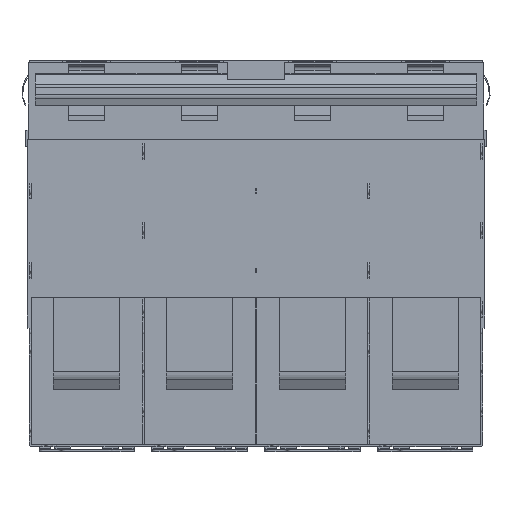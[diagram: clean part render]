
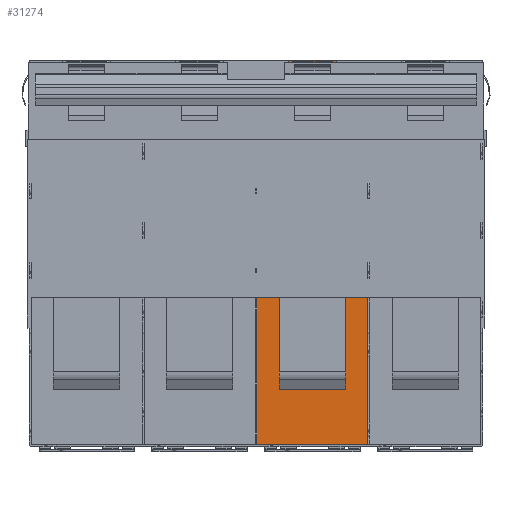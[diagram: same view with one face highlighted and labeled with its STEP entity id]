
A CAD part, front view. The second image highlights one B-rep face of the part: STEP entity #31274.
In plain terms, the highlighted planar face has unit normal (0, -1, 0).
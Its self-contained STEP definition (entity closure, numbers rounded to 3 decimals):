
#1716 = VECTOR ( 'NONE', #19689, 1000. ) ;
#2618 = LINE ( 'NONE', #50173, #1716 ) ;
#5098 = FACE_OUTER_BOUND ( 'NONE', #52629, .T. ) ;
#7949 = ORIENTED_EDGE ( 'NONE', *, *, #66746, .T. ) ;
#8696 = VERTEX_POINT ( 'NONE', #40279 ) ;
#8753 = VECTOR ( 'NONE', #10661, 1000. ) ;
#9497 = ORIENTED_EDGE ( 'NONE', *, *, #75304, .F. ) ;
#9629 = VERTEX_POINT ( 'NONE', #11454 ) ;
#10661 = DIRECTION ( 'NONE',  ( 0., 0., -1. ) ) ;
#11454 = CARTESIAN_POINT ( 'NONE',  ( 0.125, 9.2, -48.5 ) ) ;
#12129 = EDGE_CURVE ( 'NONE', #33088, #9629, #61259, .T. ) ;
#12465 = CARTESIAN_POINT ( 'NONE',  ( 28.375, 9.2, -106.201 ) ) ;
#12883 = VECTOR ( 'NONE', #35618, 1000. ) ;
#15689 = CARTESIAN_POINT ( 'NONE',  ( 11.325, 9.2, -106.201 ) ) ;
#18865 = PLANE ( 'NONE',  #48574 ) ;
#19689 = DIRECTION ( 'NONE',  ( -1., 0., 0. ) ) ;
#20460 = CARTESIAN_POINT ( 'NONE',  ( 14.125, 9.2, 0. ) ) ;
#21066 = CARTESIAN_POINT ( 'NONE',  ( 28.375, 9.2, -48.5 ) ) ;
#21397 = LINE ( 'NONE', #53289, #12883 ) ;
#22816 = CARTESIAN_POINT ( 'NONE',  ( 11.325, 9.2, -16.848 ) ) ;
#25349 = ORIENTED_EDGE ( 'NONE', *, *, #61863, .F. ) ;
#26794 = VERTEX_POINT ( 'NONE', #29611 ) ;
#27200 = EDGE_CURVE ( 'NONE', #55150, #33088, #21397, .T. ) ;
#28304 = FACE_BOUND ( 'NONE', #67021, .T. ) ;
#28692 = DIRECTION ( 'NONE',  ( -1., 0., 0. ) ) ;
#28807 = VECTOR ( 'NONE', #28692, 1000. ) ;
#29611 = CARTESIAN_POINT ( 'NONE',  ( 0.125, 9.2, 0. ) ) ;
#31114 = DIRECTION ( 'NONE',  ( 0., 0., 1. ) ) ;
#31274 = ADVANCED_FACE ( 'NONE', ( #28304, #5098 ), #18865, .F. ) ;
#32584 = LINE ( 'NONE', #64749, #28807 ) ;
#33088 = VERTEX_POINT ( 'NONE', #57289 ) ;
#35618 = DIRECTION ( 'NONE',  ( 0., 0., -1. ) ) ;
#36678 = VECTOR ( 'NONE', #39075, 1000. ) ;
#38761 = LINE ( 'NONE', #50637, #40710 ) ;
#39002 = EDGE_CURVE ( 'NONE', #47610, #39871, #41223, .T. ) ;
#39075 = DIRECTION ( 'NONE',  ( 1., 0., 0. ) ) ;
#39871 = VERTEX_POINT ( 'NONE', #48112 ) ;
#40279 = CARTESIAN_POINT ( 'NONE',  ( 2.925, 9.2, -16.848 ) ) ;
#40710 = VECTOR ( 'NONE', #56753, 1000. ) ;
#41223 = LINE ( 'NONE', #15689, #8753 ) ;
#41720 = ORIENTED_EDGE ( 'NONE', *, *, #27200, .F. ) ;
#46002 = CARTESIAN_POINT ( 'NONE',  ( 2.925, 9.2, -106.201 ) ) ;
#47131 = EDGE_CURVE ( 'NONE', #55150, #26794, #2618, .T. ) ;
#47610 = VERTEX_POINT ( 'NONE', #22816 ) ;
#48112 = CARTESIAN_POINT ( 'NONE',  ( 11.325, 9.2, -41.552 ) ) ;
#48574 = AXIS2_PLACEMENT_3D ( 'NONE', #12465, #73609, #31114 ) ;
#50173 = CARTESIAN_POINT ( 'NONE',  ( 28.375, 9.2, 0. ) ) ;
#50472 = VECTOR ( 'NONE', #64385, 1000. ) ;
#50637 = CARTESIAN_POINT ( 'NONE',  ( 0.125, 9.2, 8.953 ) ) ;
#51690 = ORIENTED_EDGE ( 'NONE', *, *, #39002, .T. ) ;
#51853 = CARTESIAN_POINT ( 'NONE',  ( 2.925, 9.2, -41.552 ) ) ;
#52629 = EDGE_LOOP ( 'NONE', ( #41720, #65529, #7949, #78000 ) ) ;
#53289 = CARTESIAN_POINT ( 'NONE',  ( 14.125, 9.2, 8.953 ) ) ;
#54634 = VERTEX_POINT ( 'NONE', #51853 ) ;
#55150 = VERTEX_POINT ( 'NONE', #20460 ) ;
#55873 = EDGE_CURVE ( 'NONE', #47610, #8696, #32584, .T. ) ;
#56753 = DIRECTION ( 'NONE',  ( 0., 0., -1. ) ) ;
#57289 = CARTESIAN_POINT ( 'NONE',  ( 14.125, 9.2, -48.5 ) ) ;
#58046 = CARTESIAN_POINT ( 'NONE',  ( 28.375, 9.2, -41.552 ) ) ;
#58489 = DIRECTION ( 'NONE',  ( -1., 0., 0. ) ) ;
#61259 = LINE ( 'NONE', #21066, #66927 ) ;
#61863 = EDGE_CURVE ( 'NONE', #54634, #39871, #71075, .T. ) ;
#61932 = LINE ( 'NONE', #46002, #50472 ) ;
#64385 = DIRECTION ( 'NONE',  ( 0., 0., -1. ) ) ;
#64749 = CARTESIAN_POINT ( 'NONE',  ( 28.375, 9.2, -16.848 ) ) ;
#65529 = ORIENTED_EDGE ( 'NONE', *, *, #47131, .T. ) ;
#66746 = EDGE_CURVE ( 'NONE', #26794, #9629, #38761, .T. ) ;
#66927 = VECTOR ( 'NONE', #58489, 1000. ) ;
#67021 = EDGE_LOOP ( 'NONE', ( #76974, #51690, #25349, #9497 ) ) ;
#71075 = LINE ( 'NONE', #58046, #36678 ) ;
#73609 = DIRECTION ( 'NONE',  ( 0., 1., 0. ) ) ;
#75304 = EDGE_CURVE ( 'NONE', #8696, #54634, #61932, .T. ) ;
#76974 = ORIENTED_EDGE ( 'NONE', *, *, #55873, .F. ) ;
#78000 = ORIENTED_EDGE ( 'NONE', *, *, #12129, .F. ) ;
